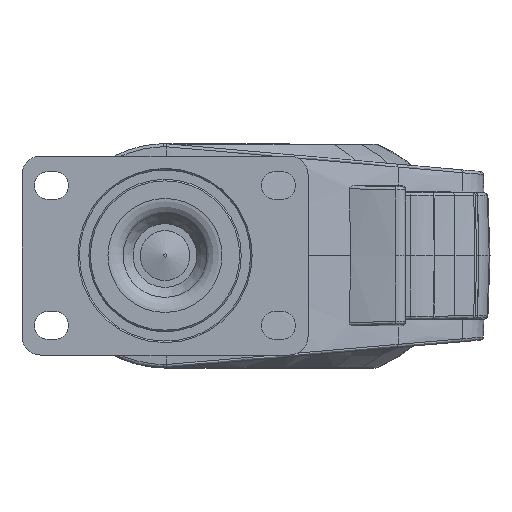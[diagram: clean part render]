
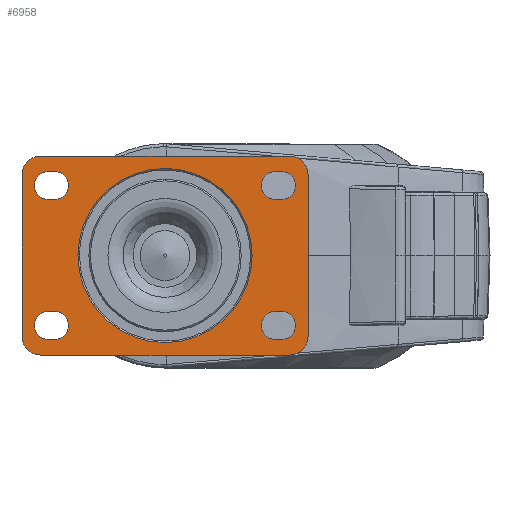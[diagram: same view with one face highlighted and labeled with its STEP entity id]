
A CAD part, top view. The second image highlights one B-rep face of the part: STEP entity #6958.
In plain terms, the highlighted planar face has unit normal (0, 0, 1).
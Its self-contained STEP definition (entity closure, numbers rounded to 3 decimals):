
#1535=FACE_BOUND('',#12153,.T.);
#1536=FACE_BOUND('',#12154,.T.);
#1537=FACE_BOUND('',#12155,.T.);
#1538=FACE_BOUND('',#12156,.T.);
#1539=FACE_BOUND('',#12157,.T.);
#1540=FACE_BOUND('',#12158,.T.);
#2618=CIRCLE('',#40431,28.);
#2619=CIRCLE('',#40433,6.);
#2620=CIRCLE('',#40434,6.);
#2621=CIRCLE('',#40435,6.);
#2622=CIRCLE('',#40436,6.);
#2623=CIRCLE('',#40437,4.5);
#2624=CIRCLE('',#40438,4.5);
#2625=CIRCLE('',#40439,4.5);
#2626=CIRCLE('',#40440,4.5);
#2627=CIRCLE('',#40441,4.5);
#2628=CIRCLE('',#40442,4.5);
#2629=CIRCLE('',#40443,4.5);
#2630=CIRCLE('',#40444,4.5);
#6958=ADVANCED_FACE('',(#1535,#1536,#1537,#1538,#1539,#1540),#7968,.F.);
#7968=PLANE('',#40445);
#12153=EDGE_LOOP('',(#22983,#22984,#22985,#22986,#22987,#22988,#22989,#22990));
#12154=EDGE_LOOP('',(#22991));
#12155=EDGE_LOOP('',(#22992,#22993,#22994,#22995));
#12156=EDGE_LOOP('',(#22996,#22997,#22998,#22999));
#12157=EDGE_LOOP('',(#23000,#23001,#23002,#23003));
#12158=EDGE_LOOP('',(#23004,#23005,#23006,#23007));
#22983=ORIENTED_EDGE('',*,*,#32807,.F.);
#22984=ORIENTED_EDGE('',*,*,#32808,.F.);
#22985=ORIENTED_EDGE('',*,*,#32809,.F.);
#22986=ORIENTED_EDGE('',*,*,#32810,.F.);
#22987=ORIENTED_EDGE('',*,*,#32811,.F.);
#22988=ORIENTED_EDGE('',*,*,#32812,.F.);
#22989=ORIENTED_EDGE('',*,*,#32813,.F.);
#22990=ORIENTED_EDGE('',*,*,#32814,.F.);
#22991=ORIENTED_EDGE('',*,*,#32806,.F.);
#22992=ORIENTED_EDGE('',*,*,#32815,.F.);
#22993=ORIENTED_EDGE('',*,*,#32816,.F.);
#22994=ORIENTED_EDGE('',*,*,#32817,.F.);
#22995=ORIENTED_EDGE('',*,*,#32818,.F.);
#22996=ORIENTED_EDGE('',*,*,#32819,.F.);
#22997=ORIENTED_EDGE('',*,*,#32820,.F.);
#22998=ORIENTED_EDGE('',*,*,#32821,.F.);
#22999=ORIENTED_EDGE('',*,*,#32822,.F.);
#23000=ORIENTED_EDGE('',*,*,#32823,.F.);
#23001=ORIENTED_EDGE('',*,*,#32824,.F.);
#23002=ORIENTED_EDGE('',*,*,#32825,.F.);
#23003=ORIENTED_EDGE('',*,*,#32826,.F.);
#23004=ORIENTED_EDGE('',*,*,#32827,.F.);
#23005=ORIENTED_EDGE('',*,*,#32828,.F.);
#23006=ORIENTED_EDGE('',*,*,#32829,.F.);
#23007=ORIENTED_EDGE('',*,*,#32830,.F.);
#27224=VERTEX_POINT('',#95407);
#27225=VERTEX_POINT('',#95410);
#27226=VERTEX_POINT('',#95411);
#27227=VERTEX_POINT('',#95413);
#27228=VERTEX_POINT('',#95415);
#27229=VERTEX_POINT('',#95417);
#27230=VERTEX_POINT('',#95419);
#27231=VERTEX_POINT('',#95421);
#27232=VERTEX_POINT('',#95423);
#27233=VERTEX_POINT('',#95426);
#27234=VERTEX_POINT('',#95427);
#27235=VERTEX_POINT('',#95429);
#27236=VERTEX_POINT('',#95431);
#27237=VERTEX_POINT('',#95434);
#27238=VERTEX_POINT('',#95435);
#27239=VERTEX_POINT('',#95437);
#27240=VERTEX_POINT('',#95439);
#27241=VERTEX_POINT('',#95442);
#27242=VERTEX_POINT('',#95443);
#27243=VERTEX_POINT('',#95445);
#27244=VERTEX_POINT('',#95447);
#27245=VERTEX_POINT('',#95450);
#27246=VERTEX_POINT('',#95451);
#27247=VERTEX_POINT('',#95453);
#27248=VERTEX_POINT('',#95455);
#32806=EDGE_CURVE('',#27224,#27224,#2618,.T.);
#32807=EDGE_CURVE('',#27225,#27226,#2619,.T.);
#32808=EDGE_CURVE('',#27227,#27225,#35205,.T.);
#32809=EDGE_CURVE('',#27228,#27227,#2620,.T.);
#32810=EDGE_CURVE('',#27229,#27228,#35206,.T.);
#32811=EDGE_CURVE('',#27230,#27229,#2621,.T.);
#32812=EDGE_CURVE('',#27231,#27230,#35207,.T.);
#32813=EDGE_CURVE('',#27232,#27231,#2622,.T.);
#32814=EDGE_CURVE('',#27226,#27232,#35208,.T.);
#32815=EDGE_CURVE('',#27233,#27234,#35209,.T.);
#32816=EDGE_CURVE('',#27235,#27233,#2623,.T.);
#32817=EDGE_CURVE('',#27236,#27235,#35210,.T.);
#32818=EDGE_CURVE('',#27234,#27236,#2624,.T.);
#32819=EDGE_CURVE('',#27237,#27238,#35211,.T.);
#32820=EDGE_CURVE('',#27239,#27237,#2625,.T.);
#32821=EDGE_CURVE('',#27240,#27239,#35212,.T.);
#32822=EDGE_CURVE('',#27238,#27240,#2626,.T.);
#32823=EDGE_CURVE('',#27241,#27242,#35213,.T.);
#32824=EDGE_CURVE('',#27243,#27241,#2627,.T.);
#32825=EDGE_CURVE('',#27244,#27243,#35214,.T.);
#32826=EDGE_CURVE('',#27242,#27244,#2628,.T.);
#32827=EDGE_CURVE('',#27245,#27246,#35215,.T.);
#32828=EDGE_CURVE('',#27247,#27245,#2629,.T.);
#32829=EDGE_CURVE('',#27248,#27247,#35216,.T.);
#32830=EDGE_CURVE('',#27246,#27248,#2630,.T.);
#35205=LINE('',#95412,#37527);
#35206=LINE('',#95416,#37528);
#35207=LINE('',#95420,#37529);
#35208=LINE('',#95424,#37530);
#35209=LINE('',#95425,#37531);
#35210=LINE('',#95430,#37532);
#35211=LINE('',#95433,#37533);
#35212=LINE('',#95438,#37534);
#35213=LINE('',#95441,#37535);
#35214=LINE('',#95446,#37536);
#35215=LINE('',#95449,#37537);
#35216=LINE('',#95454,#37538);
#37527=VECTOR('',#47938,1.);
#37528=VECTOR('',#47941,1.);
#37529=VECTOR('',#47944,1.);
#37530=VECTOR('',#47947,1.);
#37531=VECTOR('',#47948,1.);
#37532=VECTOR('',#47951,1.);
#37533=VECTOR('',#47954,1.);
#37534=VECTOR('',#47957,1.);
#37535=VECTOR('',#47960,1.);
#37536=VECTOR('',#47963,1.);
#37537=VECTOR('',#47966,1.);
#37538=VECTOR('',#47969,1.);
#40431=AXIS2_PLACEMENT_3D('',#95406,#47932,#47933);
#40433=AXIS2_PLACEMENT_3D('',#95409,#47936,#47937);
#40434=AXIS2_PLACEMENT_3D('',#95414,#47939,#47940);
#40435=AXIS2_PLACEMENT_3D('',#95418,#47942,#47943);
#40436=AXIS2_PLACEMENT_3D('',#95422,#47945,#47946);
#40437=AXIS2_PLACEMENT_3D('',#95428,#47949,#47950);
#40438=AXIS2_PLACEMENT_3D('',#95432,#47952,#47953);
#40439=AXIS2_PLACEMENT_3D('',#95436,#47955,#47956);
#40440=AXIS2_PLACEMENT_3D('',#95440,#47958,#47959);
#40441=AXIS2_PLACEMENT_3D('',#95444,#47961,#47962);
#40442=AXIS2_PLACEMENT_3D('',#95448,#47964,#47965);
#40443=AXIS2_PLACEMENT_3D('',#95452,#47967,#47968);
#40444=AXIS2_PLACEMENT_3D('',#95456,#47970,#47971);
#40445=AXIS2_PLACEMENT_3D('',#95457,#47972,#47973);
#47932=DIRECTION('',(0.,0.,1.));
#47933=DIRECTION('',(-1.,0.,0.));
#47936=DIRECTION('',(0.,0.,-1.));
#47937=DIRECTION('',(-1.,0.,0.));
#47938=DIRECTION('',(0.,1.,0.));
#47939=DIRECTION('',(0.,0.,-1.));
#47940=DIRECTION('',(-1.,0.,0.));
#47941=DIRECTION('',(-1.,0.,0.));
#47942=DIRECTION('',(0.,0.,-1.));
#47943=DIRECTION('',(-1.,0.,0.));
#47944=DIRECTION('',(0.,-1.,0.));
#47945=DIRECTION('',(0.,0.,-1.));
#47946=DIRECTION('',(-1.,0.,0.));
#47947=DIRECTION('',(1.,0.,0.));
#47948=DIRECTION('',(1.,0.,0.));
#47949=DIRECTION('',(0.,0.,1.));
#47950=DIRECTION('',(-1.,0.,0.));
#47951=DIRECTION('',(-1.,0.,0.));
#47952=DIRECTION('',(0.,0.,1.));
#47953=DIRECTION('',(-1.,0.,0.));
#47954=DIRECTION('',(1.,0.,0.));
#47955=DIRECTION('',(0.,0.,1.));
#47956=DIRECTION('',(-1.,0.,0.));
#47957=DIRECTION('',(-1.,0.,0.));
#47958=DIRECTION('',(0.,0.,1.));
#47959=DIRECTION('',(-1.,0.,0.));
#47960=DIRECTION('',(-1.,0.,0.));
#47961=DIRECTION('',(0.,0.,1.));
#47962=DIRECTION('',(-1.,0.,0.));
#47963=DIRECTION('',(1.,0.,0.));
#47964=DIRECTION('',(0.,0.,1.));
#47965=DIRECTION('',(-1.,0.,0.));
#47966=DIRECTION('',(-1.,0.,0.));
#47967=DIRECTION('',(0.,0.,1.));
#47968=DIRECTION('',(-1.,0.,0.));
#47969=DIRECTION('',(1.,0.,0.));
#47970=DIRECTION('',(0.,0.,1.));
#47971=DIRECTION('',(-1.,0.,0.));
#47972=DIRECTION('',(0.,0.,-1.));
#47973=DIRECTION('',(1.,0.,0.));
#95406=CARTESIAN_POINT('',(0.,0.,0.));
#95407=CARTESIAN_POINT('',(-28.,0.,0.));
#95409=CARTESIAN_POINT('',(-40.,26.,0.));
#95410=CARTESIAN_POINT('',(-46.,26.,0.));
#95411=CARTESIAN_POINT('',(-40.,32.,0.));
#95412=CARTESIAN_POINT('',(-46.,-28.,0.));
#95413=CARTESIAN_POINT('',(-46.,-26.,0.));
#95414=CARTESIAN_POINT('',(-40.,-26.,0.));
#95415=CARTESIAN_POINT('',(-40.,-32.,0.));
#95416=CARTESIAN_POINT('',(-32.,-32.,0.));
#95417=CARTESIAN_POINT('',(40.,-32.,0.));
#95418=CARTESIAN_POINT('',(40.,-26.,0.));
#95419=CARTESIAN_POINT('',(46.,-26.,0.));
#95420=CARTESIAN_POINT('',(46.,-28.,0.));
#95421=CARTESIAN_POINT('',(46.,26.,0.));
#95422=CARTESIAN_POINT('',(40.,26.,0.));
#95423=CARTESIAN_POINT('',(40.,32.,0.));
#95424=CARTESIAN_POINT('',(-32.,32.,0.));
#95425=CARTESIAN_POINT('',(-32.,18.022,0.));
#95426=CARTESIAN_POINT('',(-37.542,18.022,0.));
#95427=CARTESIAN_POINT('',(-35.542,18.022,0.));
#95428=CARTESIAN_POINT('',(-37.542,22.522,0.));
#95429=CARTESIAN_POINT('',(-37.542,27.022,0.));
#95430=CARTESIAN_POINT('',(-32.,27.022,0.));
#95431=CARTESIAN_POINT('',(-35.542,27.022,0.));
#95432=CARTESIAN_POINT('',(-35.542,22.522,0.));
#95433=CARTESIAN_POINT('',(-32.,-26.978,0.));
#95434=CARTESIAN_POINT('',(-37.542,-26.978,0.));
#95435=CARTESIAN_POINT('',(-35.542,-26.978,0.));
#95436=CARTESIAN_POINT('',(-37.542,-22.478,0.));
#95437=CARTESIAN_POINT('',(-37.542,-17.978,0.));
#95438=CARTESIAN_POINT('',(-32.,-17.978,0.));
#95439=CARTESIAN_POINT('',(-35.542,-17.978,0.));
#95440=CARTESIAN_POINT('',(-35.542,-22.478,0.));
#95441=CARTESIAN_POINT('',(-32.,27.022,0.));
#95442=CARTESIAN_POINT('',(37.458,27.022,0.));
#95443=CARTESIAN_POINT('',(35.458,27.022,0.));
#95444=CARTESIAN_POINT('',(37.458,22.522,0.));
#95445=CARTESIAN_POINT('',(37.458,18.022,0.));
#95446=CARTESIAN_POINT('',(-32.,18.022,0.));
#95447=CARTESIAN_POINT('',(35.458,18.022,0.));
#95448=CARTESIAN_POINT('',(35.458,22.522,0.));
#95449=CARTESIAN_POINT('',(-32.,-17.978,0.));
#95450=CARTESIAN_POINT('',(37.458,-17.978,0.));
#95451=CARTESIAN_POINT('',(35.458,-17.978,0.));
#95452=CARTESIAN_POINT('',(37.458,-22.478,0.));
#95453=CARTESIAN_POINT('',(37.458,-26.978,0.));
#95454=CARTESIAN_POINT('',(-32.,-26.978,0.));
#95455=CARTESIAN_POINT('',(35.458,-26.978,0.));
#95456=CARTESIAN_POINT('',(35.458,-22.478,0.));
#95457=CARTESIAN_POINT('',(-32.,-28.,0.));
